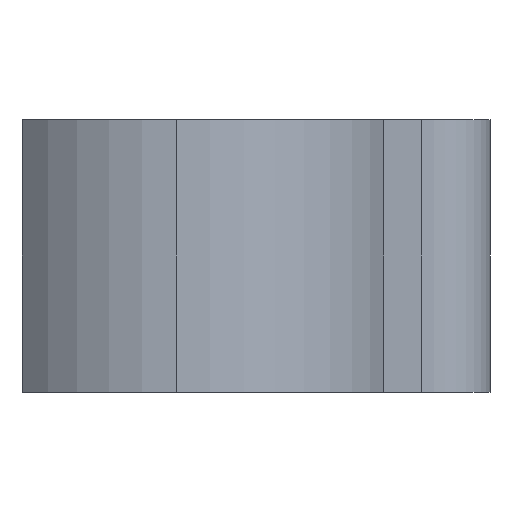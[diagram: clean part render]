
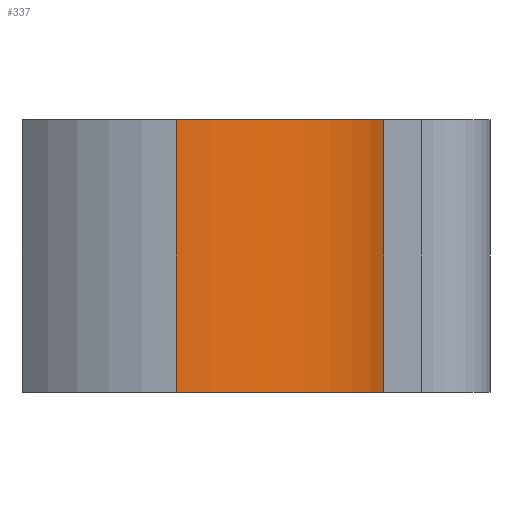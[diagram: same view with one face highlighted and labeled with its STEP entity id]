
A CAD part, left-side view. The second image highlights one B-rep face of the part: STEP entity #337.
In plain terms, the highlighted cylindrical face has radius 16 mm (diameter 32 mm), a partial arc.
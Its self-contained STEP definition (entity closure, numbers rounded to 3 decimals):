
#44 = DIRECTION ( 'NONE',  ( 0., 0., 1. ) ) ;
#46 = CYLINDRICAL_SURFACE ( 'NONE', #352, 16. ) ;
#59 = DIRECTION ( 'NONE',  ( 0., 0., 1. ) ) ;
#70 = VERTEX_POINT ( 'NONE', #118 ) ;
#73 = EDGE_CURVE ( 'NONE', #167, #134, #174, .T. ) ;
#83 = VERTEX_POINT ( 'NONE', #329 ) ;
#89 = ORIENTED_EDGE ( 'NONE', *, *, #73, .F. ) ;
#107 = DIRECTION ( 'NONE',  ( 1., 0., 0. ) ) ;
#108 = CARTESIAN_POINT ( 'NONE',  ( -5., -15.199, 20. ) ) ;
#111 = AXIS2_PLACEMENT_3D ( 'NONE', #354, #44, #541 ) ;
#118 = CARTESIAN_POINT ( 'NONE',  ( -16., 0., 20. ) ) ;
#119 = CARTESIAN_POINT ( 'NONE',  ( -5., -15.199, 0. ) ) ;
#122 = DIRECTION ( 'NONE',  ( 0., 0., -1. ) ) ;
#123 = EDGE_CURVE ( 'NONE', #70, #83, #310, .T. ) ;
#134 = VERTEX_POINT ( 'NONE', #119 ) ;
#145 = VECTOR ( 'NONE', #122, 1000. ) ;
#151 = CIRCLE ( 'NONE', #328, 16. ) ;
#160 = ORIENTED_EDGE ( 'NONE', *, *, #368, .T. ) ;
#163 = CARTESIAN_POINT ( 'NONE',  ( -5., -15.199, 20. ) ) ;
#167 = VERTEX_POINT ( 'NONE', #163 ) ;
#168 = CARTESIAN_POINT ( 'NONE',  ( 0., 0., 20. ) ) ;
#174 = LINE ( 'NONE', #108, #145 ) ;
#175 = ORIENTED_EDGE ( 'NONE', *, *, #123, .T. ) ;
#217 = VECTOR ( 'NONE', #284, 1000. ) ;
#226 = ORIENTED_EDGE ( 'NONE', *, *, #583, .F. ) ;
#284 = DIRECTION ( 'NONE',  ( 0., 0., -1. ) ) ;
#292 = EDGE_LOOP ( 'NONE', ( #226, #175, #160, #89 ) ) ;
#310 = LINE ( 'NONE', #564, #217 ) ;
#328 = AXIS2_PLACEMENT_3D ( 'NONE', #361, #59, #107 ) ;
#329 = CARTESIAN_POINT ( 'NONE',  ( -16., 0., 0. ) ) ;
#337 = ADVANCED_FACE ( 'NONE', ( #501 ), #46, .T. ) ;
#345 = DIRECTION ( 'NONE',  ( 0., 0., -1. ) ) ;
#346 = DIRECTION ( 'NONE',  ( -1., 0., 0. ) ) ;
#352 = AXIS2_PLACEMENT_3D ( 'NONE', #168, #345, #346 ) ;
#354 = CARTESIAN_POINT ( 'NONE',  ( 0., 0., 0. ) ) ;
#361 = CARTESIAN_POINT ( 'NONE',  ( 0., 0., 20. ) ) ;
#368 = EDGE_CURVE ( 'NONE', #83, #134, #480, .T. ) ;
#480 = CIRCLE ( 'NONE', #111, 16. ) ;
#501 = FACE_OUTER_BOUND ( 'NONE', #292, .T. ) ;
#541 = DIRECTION ( 'NONE',  ( 1., 0., 0. ) ) ;
#564 = CARTESIAN_POINT ( 'NONE',  ( -16., 0., 20. ) ) ;
#583 = EDGE_CURVE ( 'NONE', #70, #167, #151, .T. ) ;
